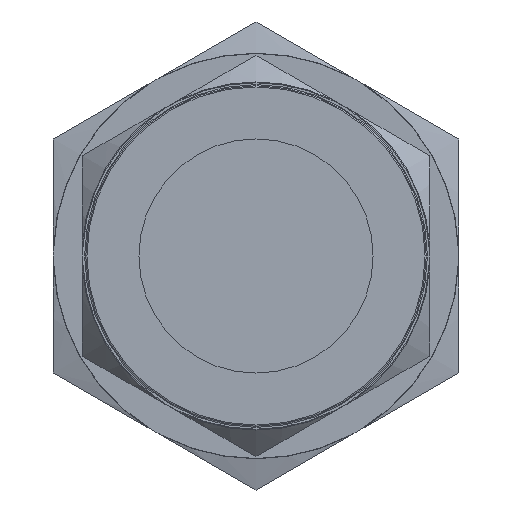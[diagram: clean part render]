
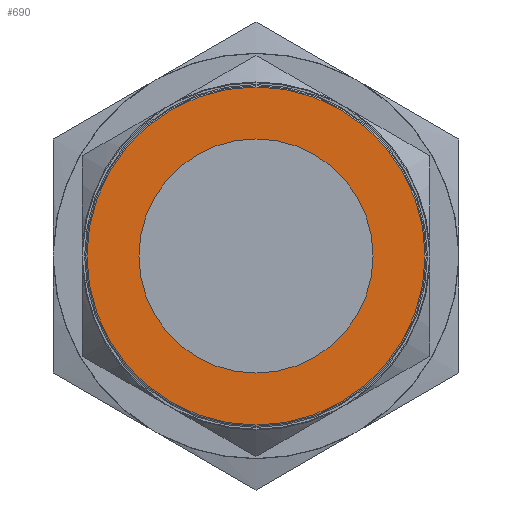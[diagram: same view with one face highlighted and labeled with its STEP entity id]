
A CAD part, left-side view. The second image highlights one B-rep face of the part: STEP entity #690.
In plain terms, the highlighted planar face has unit normal (-1, 0, 0).
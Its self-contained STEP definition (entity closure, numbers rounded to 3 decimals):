
#690 = ADVANCED_FACE( '', ( #1666, #1667 ), #1668, .T. );
#1666 = FACE_BOUND( '', #3465, .T. );
#1667 = FACE_OUTER_BOUND( '', #3466, .T. );
#1668 = PLANE( '', #3467 );
#3465 = EDGE_LOOP( '', ( #7805 ) );
#3466 = EDGE_LOOP( '', ( #7806 ) );
#3467 = AXIS2_PLACEMENT_3D( '', #7807, #7808, #7809 );
#7805 = ORIENTED_EDGE( '', *, *, #10828, .F. );
#7806 = ORIENTED_EDGE( '', *, *, #10624, .T. );
#7807 = CARTESIAN_POINT( '', ( 0., 0., 0. ) );
#7808 = DIRECTION( '', ( -1., 0., 0. ) );
#7809 = DIRECTION( '', ( 0., 0., -1. ) );
#10624 = EDGE_CURVE( '', #12265, #12265, #12266, .T. );
#10828 = EDGE_CURVE( '', #12597, #12597, #12598, .T. );
#12265 = VERTEX_POINT( '', #15277 );
#12266 = CIRCLE( '', #15278, 37.084 );
#12597 = VERTEX_POINT( '', #16083 );
#12598 = CIRCLE( '', #16084, 25.679 );
#15277 = CARTESIAN_POINT( '', ( 0., 37.084, 0. ) );
#15278 = AXIS2_PLACEMENT_3D( '', #19065, #19066, #19067 );
#16083 = CARTESIAN_POINT( '', ( 0., 0., 25.679 ) );
#16084 = AXIS2_PLACEMENT_3D( '', #19224, #19225, #19226 );
#19065 = CARTESIAN_POINT( '', ( 0., 0., 0. ) );
#19066 = DIRECTION( '', ( -1., 0., 0. ) );
#19067 = DIRECTION( '', ( 0., 1., 0. ) );
#19224 = CARTESIAN_POINT( '', ( 0., 0., 0. ) );
#19225 = DIRECTION( '', ( -1., 0., 0. ) );
#19226 = DIRECTION( '', ( 0., 0., 1. ) );
